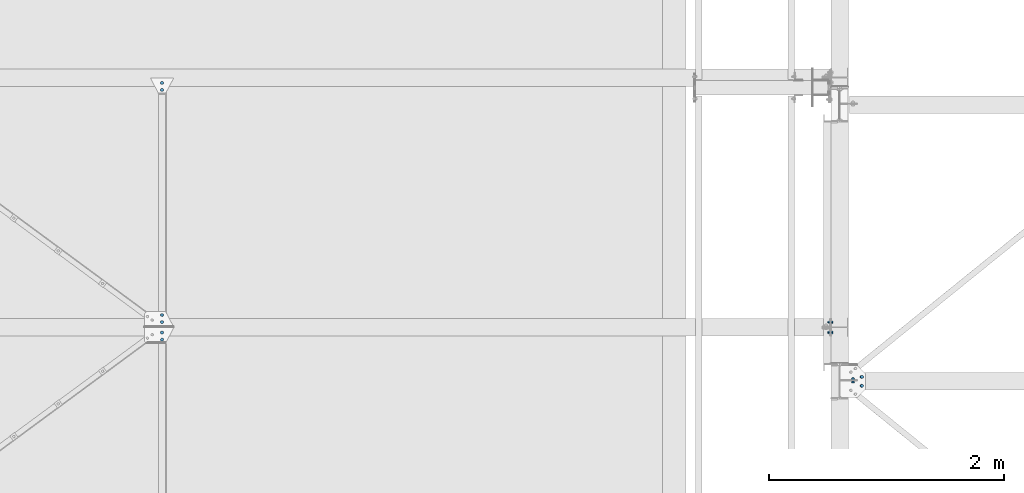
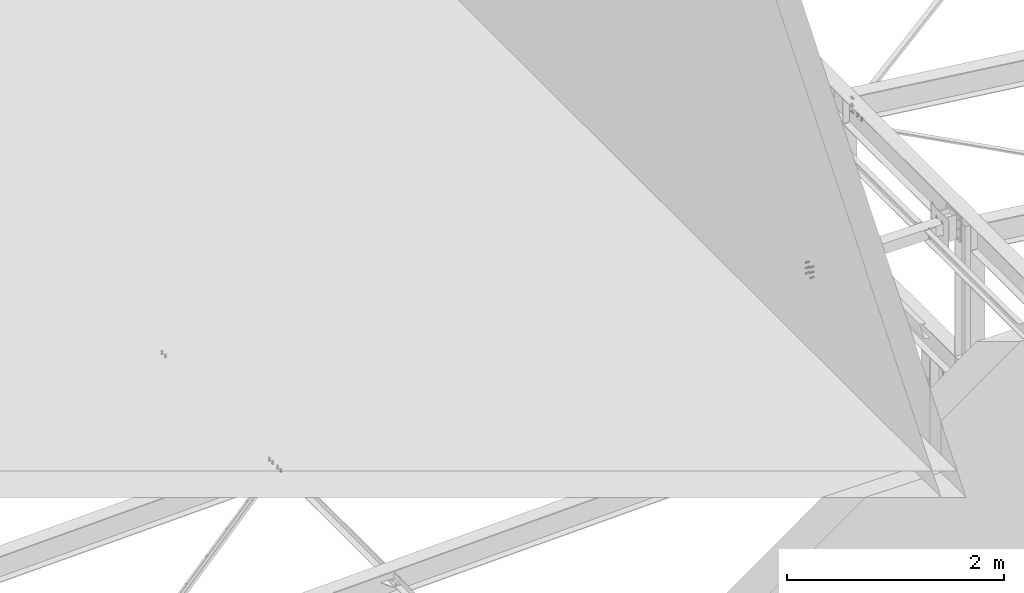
# One storey, part 89 of 3134: 7 mechanical fasteners, 5 elements without a shape of their own.
"""IFC2X3 building model written with IfcOpenShell, lengths in millimetres."""

from ifc_helpers import new_model, si_unit, frame, origin_with_axes, place, context, subcontext, project, spatial, faceted_brep, source, transform, mapped, material, type_object, element, aggregate, save


model = new_model("IFC2X3")

# Units and contexts
model_context = context("Model", 3, precision=1e-05, world=origin_with_axes())
body_context = subcontext(model_context, "Body", "Model", "MODEL_VIEW")
ifc_project = project(units=[si_unit("LENGTHUNIT", "METRE", prefix="MILLI"), si_unit("AREAUNIT", "SQUARE_METRE"), si_unit("VOLUMEUNIT", "CUBIC_METRE"), si_unit("MASSUNIT", "GRAM", prefix="KILO"), si_unit("TIMEUNIT", "SECOND"), si_unit("PLANEANGLEUNIT", "RADIAN"), si_unit("SOLIDANGLEUNIT", "STERADIAN"), si_unit("THERMODYNAMICTEMPERATUREUNIT", "DEGREE_CELSIUS"), si_unit("LUMINOUSINTENSITYUNIT", "LUMEN")], contexts=[model_context])

# Site, building, storey
site_placement = place(None, origin_with_axes())
site = spatial("IfcSite", under=ifc_project, at=site_placement, CompositionType="ELEMENT")
building_placement = place(site_placement, origin_with_axes())
building = spatial("IfcBuilding", under=site, at=building_placement, Name="Undefined", CompositionType="ELEMENT")
storey_placement = place(building_placement, origin_with_axes())
storey = spatial("IfcBuildingStorey", under=building, at=storey_placement, Name="Undefined", CompositionType="ELEMENT", Elevation=0.0)

# Assembly, mechanical fasteners
assembly_1_placement = place(storey_placement, origin_with_axes())
assembly_1 = element("IfcElementAssembly", 1, at=assembly_1_placement, inside=storey, Name="300", AssemblyPlace="NOTDEFINED", PredefinedType="RIGID_FRAME")
ifc_material = material(Name="8.8")
mechanical_fastener_type = type_object("IfcMechanicalFastenerType", Name="Bolt assembly")
shared_shape_1 = source(origin_with_axes(), body_context, "Body", "Brep", [
    faceted_brep([(13.856406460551, -19.199990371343, 0.0), (6.92820323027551, -19.199990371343, 12.0), (-6.92820323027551, -19.199990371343, 12.0), (-13.856406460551, -19.199990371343, 1.69692038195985e-15), (-6.92820323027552, -19.199990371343, -12.0), (6.9282032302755, -19.199990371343, -12.0), (6.9282032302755, -9.19999037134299, -12.0), (-6.92820323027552, -9.19999037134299, -12.0), (-13.856406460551, -9.19999037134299, 1.69692038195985e-15), (-6.92820323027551, -9.19999037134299, 12.0), (6.92820323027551, -9.19999037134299, 12.0), (13.856406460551, -9.19999037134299, 0.0), (8.0, -9.19999037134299, 0.0), (6.92820323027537, -9.19999037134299, 4.00000000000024), (3.99999999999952, -9.19999037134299, 6.92820323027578), (-8.29068785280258e-13, -9.19999037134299, 8.0), (-4.00000000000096, -9.19999037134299, 6.92820323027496), (-6.9282032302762, -9.19999037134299, 3.99999999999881), (-8.0, -9.19999037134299, -1.65813757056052e-12), (-6.92820323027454, -9.19999037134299, -4.00000000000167), (-3.99999999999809, -9.19999037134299, -6.92820323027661), (2.47832457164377e-12, -9.19999037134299, -8.0), (4.00000000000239, -9.19999037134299, -6.92820323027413), (6.92820323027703, -9.19999037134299, -3.99999999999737), (6.92820323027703, 25.800009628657, -3.99999999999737), (4.00000000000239, 25.800009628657, -6.92820323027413), (2.47832457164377e-12, 25.800009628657, -8.0), (-3.99999999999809, 25.800009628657, -6.92820323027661), (-6.92820323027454, 25.800009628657, -4.00000000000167), (-8.0, 25.800009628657, -1.65813757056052e-12), (-6.9282032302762, 25.800009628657, 3.99999999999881), (-4.00000000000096, 25.800009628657, 6.92820323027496), (-8.29068785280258e-13, 25.800009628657, 8.0), (3.99999999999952, 25.800009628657, 6.92820323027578), (6.92820323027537, 25.800009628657, 4.00000000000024), (8.0, 25.800009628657, 0.0), (13.856406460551, 8.00000637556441, 0.0), (6.92820323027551, 8.00000637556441, 12.0), (-6.92820323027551, 8.00000637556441, 12.0), (-13.856406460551, 8.00000637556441, 1.69692038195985e-15), (-6.92820323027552, 8.00000637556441, -12.0), (6.9282032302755, 8.00000637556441, -12.0), (6.9282032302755, 21.0000063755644, -12.0), (-6.92820323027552, 21.0000063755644, -12.0), (-13.856406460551, 21.0000063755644, 1.69692038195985e-15), (-6.92820323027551, 21.0000063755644, 12.0), (6.92820323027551, 21.0000063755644, 12.0), (13.856406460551, 21.0000063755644, 0.0)], [[[0, 1, 2, 3, 4, 5]], [[6, 7, 8, 9, 10, 11]], [[0, 11, 10, 1]], [[1, 10, 9, 2]], [[2, 9, 8, 3]], [[3, 8, 7, 4]], [[4, 7, 6, 5]], [[5, 6, 11, 0]], [[12, 13, 14, 15, 16, 17, 18, 19, 20, 21, 22, 23]], [[24, 25, 26, 27, 28, 29, 30, 31, 32, 33, 34, 35]], [[12, 35, 34, 13]], [[13, 34, 33, 14]], [[14, 33, 32, 15]], [[15, 32, 31, 16]], [[16, 31, 30, 17]], [[17, 30, 29, 18]], [[18, 29, 28, 19]], [[19, 28, 27, 20]], [[20, 27, 26, 21]], [[21, 26, 25, 22]], [[22, 25, 24, 23]], [[23, 24, 35, 12]], [[36, 37, 38, 39, 40, 41]], [[42, 43, 44, 45, 46, 47]], [[36, 47, 46, 37]], [[37, 46, 45, 38]], [[38, 45, 44, 39]], [[39, 44, 43, 40]], [[40, 43, 42, 41]], [[41, 42, 47, 36]]]),
    faceted_brep([(9.0, -0.1, 0.0), (7.79422863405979, -0.1, 4.50000000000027), (4.49999999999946, -0.1, 7.79422863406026), (-9.3270238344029e-13, -0.1, 9.0), (-4.50000000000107, -0.1, 7.79422863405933), (-7.79422863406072, -0.1, 4.49999999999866), (-9.0, -0.1, -1.86540476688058e-12), (-7.79422863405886, -0.1, -4.50000000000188), (-4.49999999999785, -0.1, -7.79422863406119), (2.78811514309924e-12, -0.1, -9.0), (4.50000000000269, -0.1, -7.7942286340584), (7.79422863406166, -0.1, -4.49999999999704), (7.79422863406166, 8.00000000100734, -4.49999999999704), (4.50000000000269, 8.00000000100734, -7.7942286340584), (2.78811514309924e-12, 8.00000000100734, -9.0), (-4.49999999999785, 8.00000000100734, -7.79422863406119), (-7.79422863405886, 8.00000000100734, -4.50000000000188), (-9.0, 8.00000000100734, -1.86540476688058e-12), (-7.79422863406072, 8.00000000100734, 4.49999999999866), (-4.50000000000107, 8.00000000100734, 7.79422863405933), (-9.3270238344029e-13, 8.00000000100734, 9.0), (4.49999999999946, 8.00000000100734, 7.79422863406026), (7.79422863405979, 8.00000000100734, 4.50000000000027), (9.0, 8.00000000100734, 0.0), (9.0, -9.09999037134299, 0.0), (7.79422863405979, -9.09999037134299, 4.50000000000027), (4.49999999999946, -9.09999037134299, 7.79422863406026), (-9.3270238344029e-13, -9.09999037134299, 9.0), (-4.50000000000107, -9.09999037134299, 7.79422863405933), (-7.79422863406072, -9.09999037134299, 4.49999999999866), (-9.0, -9.09999037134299, -1.86540476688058e-12), (-7.79422863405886, -9.09999037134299, -4.50000000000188), (-4.49999999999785, -9.09999037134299, -7.79422863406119), (2.78811514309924e-12, -9.09999037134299, -9.0), (4.50000000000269, -9.09999037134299, -7.7942286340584), (7.79422863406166, -9.09999037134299, -4.49999999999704), (7.79422863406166, 0.100000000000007, -4.49999999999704), (4.50000000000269, 0.100000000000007, -7.7942286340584), (2.78811514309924e-12, 0.100000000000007, -9.0), (-4.49999999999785, 0.100000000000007, -7.79422863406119), (-7.79422863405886, 0.100000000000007, -4.50000000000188), (-9.0, 0.100000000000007, -1.86540476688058e-12), (-7.79422863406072, 0.100000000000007, 4.49999999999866), (-4.50000000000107, 0.100000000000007, 7.79422863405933), (-9.3270238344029e-13, 0.100000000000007, 9.0), (4.49999999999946, 0.100000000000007, 7.79422863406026), (7.79422863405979, 0.100000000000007, 4.50000000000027), (9.0, 0.100000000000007, 0.0)], [[[0, 1, 2, 3, 4, 5, 6, 7, 8, 9, 10, 11]], [[12, 13, 14, 15, 16, 17, 18, 19, 20, 21, 22, 23]], [[0, 23, 22, 1]], [[1, 22, 21, 2]], [[2, 21, 20, 3]], [[3, 20, 19, 4]], [[4, 19, 18, 5]], [[5, 18, 17, 6]], [[6, 17, 16, 7]], [[7, 16, 15, 8]], [[8, 15, 14, 9]], [[9, 14, 13, 10]], [[10, 13, 12, 11]], [[11, 12, 23, 0]], [[24, 25, 26, 27, 28, 29, 30, 31, 32, 33, 34, 35]], [[36, 37, 38, 39, 40, 41, 42, 43, 44, 45, 46, 47]], [[24, 47, 46, 25]], [[25, 46, 45, 26]], [[26, 45, 44, 27]], [[27, 44, 43, 28]], [[28, 43, 42, 29]], [[29, 42, 41, 30]], [[30, 41, 40, 31]], [[31, 40, 39, 32]], [[32, 39, 38, 33]], [[33, 38, 37, 34]], [[34, 37, 36, 35]], [[35, 36, 47, 24]]]),
])
mechanical_fastener_1_placement = place(assembly_1_placement, frame((21039.2248162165, 14767.9995130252, 5496.68063425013), z_axis=(0.992623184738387, 1.63108538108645e-05, -0.12124031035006), x_axis=(1.62000016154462e-05, -0.999999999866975, -1.90000018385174e-06)))
mechanical_fastener_1 = element("IfcMechanicalFastener", 2, at=mechanical_fastener_1_placement, type_object=mechanical_fastener_type, material=ifc_material, Name="Bolt assembly", NominalDiameter=16.0, NominalLength=35.0, context=body_context, shape_type="MappedRepresentation", body=[
    mapped(shared_shape_1, transform((0.0, 0.0, 0.0))),
    mapped(shared_shape_1, transform((76.0, 0.0, 0.0))),
])
shared_shape_2 = source(origin_with_axes(), body_context, "Body", "Brep", [
    faceted_brep([(13.856406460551, -13.0499999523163, 0.0), (6.92820323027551, -13.0499999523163, 12.0), (-6.92820323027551, -13.0499999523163, 12.0), (-13.856406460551, -13.0499999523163, 1.69692038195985e-15), (-6.92820323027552, -13.0499999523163, -12.0), (6.9282032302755, -13.0499999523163, -12.0), (6.9282032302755, -3.04999995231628, -12.0), (-6.92820323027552, -3.04999995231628, -12.0), (-13.856406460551, -3.04999995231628, 1.69692038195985e-15), (-6.92820323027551, -3.04999995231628, 12.0), (6.92820323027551, -3.04999995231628, 12.0), (13.856406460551, -3.04999995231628, 0.0), (8.0, -3.04999995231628, 0.0), (6.92820323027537, -3.04999995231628, 4.00000000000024), (3.99999999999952, -3.04999995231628, 6.92820323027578), (-8.29068785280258e-13, -3.04999995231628, 8.0), (-4.00000000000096, -3.04999995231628, 6.92820323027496), (-6.9282032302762, -3.04999995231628, 3.99999999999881), (-8.0, -3.04999995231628, -1.65813757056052e-12), (-6.92820323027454, -3.04999995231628, -4.00000000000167), (-3.99999999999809, -3.04999995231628, -6.92820323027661), (2.47832457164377e-12, -3.04999995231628, -8.0), (4.00000000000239, -3.04999995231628, -6.92820323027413), (6.92820323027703, -3.04999995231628, -3.99999999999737), (6.92820323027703, 31.9500000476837, -3.99999999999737), (4.00000000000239, 31.9500000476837, -6.92820323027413), (2.47832457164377e-12, 31.9500000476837, -8.0), (-3.99999999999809, 31.9500000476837, -6.92820323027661), (-6.92820323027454, 31.9500000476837, -4.00000000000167), (-8.0, 31.9500000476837, -1.65813757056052e-12), (-6.9282032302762, 31.9500000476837, 3.99999999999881), (-4.00000000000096, 31.9500000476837, 6.92820323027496), (-8.29068785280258e-13, 31.9500000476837, 8.0), (3.99999999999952, 31.9500000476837, 6.92820323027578), (6.92820323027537, 31.9500000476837, 4.00000000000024), (8.0, 31.9500000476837, 0.0), (13.856406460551, 13.0500000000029, 0.0), (6.92820323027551, 13.0500000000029, 12.0), (-6.92820323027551, 13.0500000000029, 12.0), (-13.856406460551, 13.0500000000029, 1.69692038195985e-15), (-6.92820323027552, 13.0500000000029, -12.0), (6.9282032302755, 13.0500000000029, -12.0), (6.9282032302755, 26.0500000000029, -12.0), (-6.92820323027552, 26.0500000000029, -12.0), (-13.856406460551, 26.0500000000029, 1.69692038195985e-15), (-6.92820323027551, 26.0500000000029, 12.0), (6.92820323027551, 26.0500000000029, 12.0), (13.856406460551, 26.0500000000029, 0.0)], [[[0, 1, 2, 3, 4, 5]], [[6, 7, 8, 9, 10, 11]], [[0, 11, 10, 1]], [[1, 10, 9, 2]], [[2, 9, 8, 3]], [[3, 8, 7, 4]], [[4, 7, 6, 5]], [[5, 6, 11, 0]], [[12, 13, 14, 15, 16, 17, 18, 19, 20, 21, 22, 23]], [[24, 25, 26, 27, 28, 29, 30, 31, 32, 33, 34, 35]], [[12, 35, 34, 13]], [[13, 34, 33, 14]], [[14, 33, 32, 15]], [[15, 32, 31, 16]], [[16, 31, 30, 17]], [[17, 30, 29, 18]], [[18, 29, 28, 19]], [[19, 28, 27, 20]], [[20, 27, 26, 21]], [[21, 26, 25, 22]], [[22, 25, 24, 23]], [[23, 24, 35, 12]], [[36, 37, 38, 39, 40, 41]], [[42, 43, 44, 45, 46, 47]], [[36, 47, 46, 37]], [[37, 46, 45, 38]], [[38, 45, 44, 39]], [[39, 44, 43, 40]], [[40, 43, 42, 41]], [[41, 42, 47, 36]]]),
    faceted_brep([(9.0, 2.95000000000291, 0.0), (7.79422863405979, 2.95000000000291, 4.50000000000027), (4.49999999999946, 2.95000000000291, 7.79422863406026), (-9.3270238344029e-13, 2.95000000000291, 9.0), (-4.50000000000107, 2.95000000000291, 7.79422863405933), (-7.79422863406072, 2.95000000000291, 4.49999999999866), (-9.0, 2.95000000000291, -1.86540476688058e-12), (-7.79422863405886, 2.95000000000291, -4.50000000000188), (-4.49999999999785, 2.95000000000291, -7.79422863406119), (2.78811514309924e-12, 2.95000000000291, -9.0), (4.50000000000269, 2.95000000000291, -7.7942286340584), (7.79422863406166, 2.95000000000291, -4.49999999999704), (7.79422863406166, 13.0500000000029, -4.49999999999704), (4.50000000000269, 13.0500000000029, -7.7942286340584), (2.78811514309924e-12, 13.0500000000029, -9.0), (-4.49999999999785, 13.0500000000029, -7.79422863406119), (-7.79422863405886, 13.0500000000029, -4.50000000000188), (-9.0, 13.0500000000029, -1.86540476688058e-12), (-7.79422863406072, 13.0500000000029, 4.49999999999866), (-4.50000000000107, 13.0500000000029, 7.79422863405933), (-9.3270238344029e-13, 13.0500000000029, 9.0), (4.49999999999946, 13.0500000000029, 7.79422863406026), (7.79422863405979, 13.0500000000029, 4.50000000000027), (9.0, 13.0500000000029, 0.0), (9.0, -2.94999995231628, 0.0), (7.79422863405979, -2.94999995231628, 4.50000000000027), (4.49999999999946, -2.94999995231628, 7.79422863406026), (-9.3270238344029e-13, -2.94999995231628, 9.0), (-4.50000000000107, -2.94999995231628, 7.79422863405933), (-7.79422863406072, -2.94999995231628, 4.49999999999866), (-9.0, -2.94999995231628, -1.86540476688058e-12), (-7.79422863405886, -2.94999995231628, -4.50000000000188), (-4.49999999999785, -2.94999995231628, -7.79422863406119), (2.78811514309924e-12, -2.94999995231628, -9.0), (4.50000000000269, -2.94999995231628, -7.7942286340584), (7.79422863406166, -2.94999995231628, -4.49999999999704), (7.79422863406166, 3.14999995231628, -4.49999999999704), (4.50000000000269, 3.14999995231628, -7.7942286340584), (2.78811514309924e-12, 3.14999995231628, -9.0), (-4.49999999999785, 3.14999995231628, -7.79422863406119), (-7.79422863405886, 3.14999995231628, -4.50000000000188), (-9.0, 3.14999995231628, -1.86540476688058e-12), (-7.79422863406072, 3.14999995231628, 4.49999999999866), (-4.50000000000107, 3.14999995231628, 7.79422863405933), (-9.3270238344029e-13, 3.14999995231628, 9.0), (4.49999999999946, 3.14999995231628, 7.79422863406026), (7.79422863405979, 3.14999995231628, 4.50000000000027), (9.0, 3.14999995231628, 0.0)], [[[0, 1, 2, 3, 4, 5, 6, 7, 8, 9, 10, 11]], [[12, 13, 14, 15, 16, 17, 18, 19, 20, 21, 22, 23]], [[0, 23, 22, 1]], [[1, 22, 21, 2]], [[2, 21, 20, 3]], [[3, 20, 19, 4]], [[4, 19, 18, 5]], [[5, 18, 17, 6]], [[6, 17, 16, 7]], [[7, 16, 15, 8]], [[8, 15, 14, 9]], [[9, 14, 13, 10]], [[10, 13, 12, 11]], [[11, 12, 23, 0]], [[24, 25, 26, 27, 28, 29, 30, 31, 32, 33, 34, 35]], [[36, 37, 38, 39, 40, 41, 42, 43, 44, 45, 46, 47]], [[24, 47, 46, 25]], [[25, 46, 45, 26]], [[26, 45, 44, 27]], [[27, 44, 43, 28]], [[28, 43, 42, 29]], [[29, 42, 41, 30]], [[30, 41, 40, 31]], [[31, 40, 39, 32]], [[32, 39, 38, 33]], [[33, 38, 37, 34]], [[34, 37, 36, 35]], [[35, 36, 47, 24]]]),
])
mechanical_fastener_2_placement = place(assembly_1_placement, frame((20964.9999999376, 14730.0, 5735.35014954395), z_axis=(1.0, 0.0, 0.0), x_axis=(0.0, 0.0, -1.0)))
mechanical_fastener_2 = element("IfcMechanicalFastener", 3, at=mechanical_fastener_2_placement, type_object=mechanical_fastener_type, material=ifc_material, Name="Bolt assembly", NominalDiameter=16.0, NominalLength=35.0, context=body_context, shape_type="MappedRepresentation", body=[
    mapped(shared_shape_2, transform((0.0, 0.0, 0.0))),
    mapped(shared_shape_2, transform((80.0, 0.0, 0.0))),
    mapped(shared_shape_2, transform((160.0, 0.0, 0.0))),
])
aggregate(assembly_1, [mechanical_fastener_1, mechanical_fastener_2])

assembly_2_placement = place(storey_placement, origin_with_axes())
assembly_2 = element("IfcElementAssembly", 4, at=assembly_2_placement, inside=storey, Name="300", AssemblyPlace="NOTDEFINED", PredefinedType="RIGID_FRAME")
shared_shape_3 = source(origin_with_axes(), body_context, "Body", "Brep", [
    faceted_brep([(13.856406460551, -21.0000017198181, 0.0), (6.92820323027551, -21.0000017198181, 12.0), (-6.92820323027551, -21.0000017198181, 12.0), (-13.856406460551, -21.0000017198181, 1.69692038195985e-15), (-6.92820323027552, -21.0000017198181, -12.0), (6.9282032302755, -21.0000017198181, -12.0), (6.9282032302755, -11.0000017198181, -12.0), (-6.92820323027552, -11.0000017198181, -12.0), (-13.856406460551, -11.0000017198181, 1.69692038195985e-15), (-6.92820323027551, -11.0000017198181, 12.0), (6.92820323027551, -11.0000017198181, 12.0), (13.856406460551, -11.0000017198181, 0.0), (8.0, -11.0000017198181, 0.0), (6.92820323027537, -11.0000017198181, 4.00000000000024), (3.99999999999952, -11.0000017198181, 6.92820323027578), (-8.29068785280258e-13, -11.0000017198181, 8.0), (-4.00000000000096, -11.0000017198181, 6.92820323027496), (-6.9282032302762, -11.0000017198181, 3.99999999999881), (-8.0, -11.0000017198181, -1.65813757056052e-12), (-6.92820323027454, -11.0000017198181, -4.00000000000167), (-3.99999999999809, -11.0000017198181, -6.92820323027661), (2.47832457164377e-12, -11.0000017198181, -8.0), (4.00000000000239, -11.0000017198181, -6.92820323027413), (6.92820323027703, -11.0000017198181, -3.99999999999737), (6.92820323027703, 23.9999999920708, -3.99999999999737), (4.00000000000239, 23.9999999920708, -6.92820323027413), (2.47832457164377e-12, 23.9999999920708, -8.0), (-3.99999999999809, 23.9999999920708, -6.92820323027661), (-6.92820323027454, 23.9999999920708, -4.00000000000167), (-8.0, 23.9999999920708, -1.65813757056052e-12), (-6.9282032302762, 23.9999999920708, 3.99999999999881), (-4.00000000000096, 23.9999999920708, 6.92820323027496), (-8.29068785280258e-13, 23.9999999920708, 8.0), (3.99999999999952, 23.9999999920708, 6.92820323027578), (6.92820323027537, 23.9999999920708, 4.00000000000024), (8.0, 23.9999999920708, 0.0), (13.856406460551, 3.99999999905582, 0.0), (6.92820323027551, 3.99999999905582, 12.0), (-6.92820323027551, 3.99999999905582, 12.0), (-13.856406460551, 3.99999999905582, 1.69692038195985e-15), (-6.92820323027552, 3.99999999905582, -12.0), (6.9282032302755, 3.99999999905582, -12.0), (6.9282032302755, 16.9999999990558, -12.0), (-6.92820323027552, 16.9999999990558, -12.0), (-13.856406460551, 16.9999999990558, 1.69692038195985e-15), (-6.92820323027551, 16.9999999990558, 12.0), (6.92820323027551, 16.9999999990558, 12.0), (13.856406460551, 16.9999999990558, 0.0)], [[[0, 1, 2, 3, 4, 5]], [[6, 7, 8, 9, 10, 11]], [[0, 11, 10, 1]], [[1, 10, 9, 2]], [[2, 9, 8, 3]], [[3, 8, 7, 4]], [[4, 7, 6, 5]], [[5, 6, 11, 0]], [[12, 13, 14, 15, 16, 17, 18, 19, 20, 21, 22, 23]], [[24, 25, 26, 27, 28, 29, 30, 31, 32, 33, 34, 35]], [[12, 35, 34, 13]], [[13, 34, 33, 14]], [[14, 33, 32, 15]], [[15, 32, 31, 16]], [[16, 31, 30, 17]], [[17, 30, 29, 18]], [[18, 29, 28, 19]], [[19, 28, 27, 20]], [[20, 27, 26, 21]], [[21, 26, 25, 22]], [[22, 25, 24, 23]], [[23, 24, 35, 12]], [[36, 37, 38, 39, 40, 41]], [[42, 43, 44, 45, 46, 47]], [[36, 47, 46, 37]], [[37, 46, 45, 38]], [[38, 45, 44, 39]], [[39, 44, 43, 40]], [[40, 43, 42, 41]], [[41, 42, 47, 36]]]),
    faceted_brep([(9.0, -10.9000017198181, 0.0), (7.79422863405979, -10.9000017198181, 4.50000000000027), (4.49999999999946, -10.9000017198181, 7.79422863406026), (-9.3270238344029e-13, -10.9000017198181, 9.0), (-4.50000000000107, -10.9000017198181, 7.79422863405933), (-7.79422863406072, -10.9000017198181, 4.49999999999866), (-9.0, -10.9000017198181, -1.86540476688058e-12), (-7.79422863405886, -10.9000017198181, -4.50000000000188), (-4.49999999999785, -10.9000017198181, -7.79422863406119), (2.78811514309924e-12, -10.9000017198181, -9.0), (4.50000000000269, -10.9000017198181, -7.7942286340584), (7.79422863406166, -10.9000017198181, -4.49999999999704), (7.79422863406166, -3.9, -4.49999999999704), (4.50000000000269, -3.9, -7.7942286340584), (2.78811514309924e-12, -3.9, -9.0), (-4.49999999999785, -3.9, -7.79422863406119), (-7.79422863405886, -3.9, -4.50000000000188), (-9.0, -3.9, -1.86540476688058e-12), (-7.79422863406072, -3.9, 4.49999999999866), (-4.50000000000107, -3.9, 7.79422863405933), (-9.3270238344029e-13, -3.9, 9.0), (4.49999999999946, -3.9, 7.79422863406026), (7.79422863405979, -3.9, 4.50000000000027), (9.0, -3.9, 0.0), (9.0, -4.10000000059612, 0.0), (7.79422863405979, -4.10000000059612, 4.50000000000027), (4.49999999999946, -4.10000000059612, 7.79422863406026), (-9.3270238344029e-13, -4.10000000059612, 9.0), (-4.50000000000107, -4.10000000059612, 7.79422863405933), (-7.79422863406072, -4.10000000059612, 4.49999999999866), (-9.0, -4.10000000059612, -1.86540476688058e-12), (-7.79422863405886, -4.10000000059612, -4.50000000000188), (-4.49999999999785, -4.10000000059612, -7.79422863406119), (2.78811514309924e-12, -4.10000000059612, -9.0), (4.50000000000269, -4.10000000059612, -7.7942286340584), (7.79422863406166, -4.10000000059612, -4.49999999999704), (7.79422863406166, 4.00000375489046, -4.49999999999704), (4.50000000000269, 4.00000375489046, -7.7942286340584), (2.78811514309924e-12, 4.00000375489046, -9.0), (-4.49999999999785, 4.00000375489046, -7.79422863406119), (-7.79422863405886, 4.00000375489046, -4.50000000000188), (-9.0, 4.00000375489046, -1.86540476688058e-12), (-7.79422863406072, 4.00000375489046, 4.49999999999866), (-4.50000000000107, 4.00000375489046, 7.79422863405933), (-9.3270238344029e-13, 4.00000375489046, 9.0), (4.49999999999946, 4.00000375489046, 7.79422863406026), (7.79422863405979, 4.00000375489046, 4.50000000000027), (9.0, 4.00000375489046, 0.0)], [[[0, 1, 2, 3, 4, 5, 6, 7, 8, 9, 10, 11]], [[12, 13, 14, 15, 16, 17, 18, 19, 20, 21, 22, 23]], [[0, 23, 22, 1]], [[1, 22, 21, 2]], [[2, 21, 20, 3]], [[3, 20, 19, 4]], [[4, 19, 18, 5]], [[5, 18, 17, 6]], [[6, 17, 16, 7]], [[7, 16, 15, 8]], [[8, 15, 14, 9]], [[9, 14, 13, 10]], [[10, 13, 12, 11]], [[11, 12, 23, 0]], [[24, 25, 26, 27, 28, 29, 30, 31, 32, 33, 34, 35]], [[36, 37, 38, 39, 40, 41, 42, 43, 44, 45, 46, 47]], [[24, 47, 46, 25]], [[25, 46, 45, 26]], [[26, 45, 44, 27]], [[27, 44, 43, 28]], [[28, 43, 42, 29]], [[29, 42, 41, 30]], [[30, 41, 40, 31]], [[31, 40, 39, 32]], [[32, 39, 38, 33]], [[33, 38, 37, 34]], [[34, 37, 36, 35]], [[35, 36, 47, 24]]]),
])
mechanical_fastener_3_placement = place(assembly_2_placement, frame((15072.5010771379, 15144.999366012, 3386.35293761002), z_axis=(0.999519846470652, 0.0, 0.0309851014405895), x_axis=(0.0, -1.0, 0.0)))
mechanical_fastener_3 = element("IfcMechanicalFastener", 5, at=mechanical_fastener_3_placement, type_object=mechanical_fastener_type, material=ifc_material, Name="Bolt assembly", NominalDiameter=16.0, NominalLength=35.0, context=body_context, shape_type="MappedRepresentation", body=[
    mapped(shared_shape_3, transform((0.0, 0.0, 0.0))),
    mapped(shared_shape_3, transform((59.9999999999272, 0.0, 5.40239852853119e-10))),
])
mechanical_fastener_4_placement = place(assembly_2_placement, frame((15072.5010771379, 15235.0, 3386.35293761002), z_axis=(-0.999519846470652, 0.0, -0.0309851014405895), x_axis=(0.0, 1.0, 0.0)))
mechanical_fastener_4 = element("IfcMechanicalFastener", 6, at=mechanical_fastener_4_placement, type_object=mechanical_fastener_type, material=ifc_material, Name="Bolt assembly", NominalDiameter=16.0, NominalLength=35.0, context=body_context, shape_type="MappedRepresentation", body=[
    mapped(shared_shape_3, transform((0.0, 0.0, 0.0))),
    mapped(shared_shape_3, transform((59.9999999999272, 0.0, 5.40239852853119e-10))),
])
aggregate(assembly_2, [mechanical_fastener_3, mechanical_fastener_4])

# Assembly, mechanical fastener
assembly_3_placement = place(storey_placement, origin_with_axes())
assembly_3 = element("IfcElementAssembly", 7, at=assembly_3_placement, inside=storey, Name="300", AssemblyPlace="NOTDEFINED", PredefinedType="RIGID_FRAME")
mechanical_fastener_5_placement = place(assembly_3_placement, frame((15072.5010771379, 17215.0, 3386.35293761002), z_axis=(-0.999519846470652, 0.0, -0.0309851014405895), x_axis=(0.0, 1.0, 0.0)))
mechanical_fastener_5 = element("IfcMechanicalFastener", 8, at=mechanical_fastener_5_placement, type_object=mechanical_fastener_type, material=ifc_material, Name="Bolt assembly", NominalDiameter=16.0, NominalLength=35.0, context=body_context, shape_type="MappedRepresentation", body=[
    mapped(shared_shape_3, transform((0.0, 0.0, 0.0))),
    mapped(shared_shape_3, transform((59.9999999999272, 0.0, 5.40239852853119e-10))),
])
aggregate(assembly_3, [mechanical_fastener_5])

assembly_4_placement = place(storey_placement, origin_with_axes())
assembly_4 = element("IfcElementAssembly", 9, at=assembly_4_placement, inside=storey, AssemblyPlace="NOTDEFINED", PredefinedType="RIGID_FRAME")
shared_shape_4 = source(origin_with_axes(), body_context, "Body", "Brep", [
    faceted_brep([(13.856406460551, -19.0, 0.0), (6.92820323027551, -19.0, 12.0), (-6.92820323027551, -19.0, 12.0), (-13.856406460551, -19.0, 1.69692038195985e-15), (-6.92820323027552, -19.0, -12.0), (6.9282032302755, -19.0, -12.0), (6.9282032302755, -9.0, -12.0), (-6.92820323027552, -9.0, -12.0), (-13.856406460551, -9.0, 1.69692038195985e-15), (-6.92820323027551, -9.0, 12.0), (6.92820323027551, -9.0, 12.0), (13.856406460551, -9.0, 0.0), (8.0, -9.0, 0.0), (6.92820323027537, -9.0, 4.00000000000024), (3.99999999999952, -9.0, 6.92820323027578), (-8.29068785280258e-13, -9.0, 8.0), (-4.00000000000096, -9.0, 6.92820323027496), (-6.9282032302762, -9.0, 3.99999999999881), (-8.0, -9.0, -1.65813757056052e-12), (-6.92820323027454, -9.0, -4.00000000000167), (-3.99999999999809, -9.0, -6.92820323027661), (2.47832457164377e-12, -9.0, -8.0), (4.00000000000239, -9.0, -6.92820323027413), (6.92820323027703, -9.0, -3.99999999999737), (6.92820323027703, 26.0, -3.99999999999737), (4.00000000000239, 26.0, -6.92820323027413), (2.47832457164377e-12, 26.0, -8.0), (-3.99999999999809, 26.0, -6.92820323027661), (-6.92820323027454, 26.0, -4.00000000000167), (-8.0, 26.0, -1.65813757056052e-12), (-6.9282032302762, 26.0, 3.99999999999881), (-4.00000000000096, 26.0, 6.92820323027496), (-8.29068785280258e-13, 26.0, 8.0), (3.99999999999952, 26.0, 6.92820323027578), (6.92820323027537, 26.0, 4.00000000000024), (8.0, 26.0, 0.0), (13.856406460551, 7.0, 0.0), (6.92820323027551, 7.0, 12.0), (-6.92820323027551, 7.0, 12.0), (-13.856406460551, 7.0, 1.69692038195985e-15), (-6.92820323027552, 7.0, -12.0), (6.9282032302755, 7.0, -12.0), (6.9282032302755, 20.0, -12.0), (-6.92820323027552, 20.0, -12.0), (-13.856406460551, 20.0, 1.69692038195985e-15), (-6.92820323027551, 20.0, 12.0), (6.92820323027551, 20.0, 12.0), (13.856406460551, 20.0, 0.0)], [[[0, 1, 2, 3, 4, 5]], [[6, 7, 8, 9, 10, 11]], [[0, 11, 10, 1]], [[1, 10, 9, 2]], [[2, 9, 8, 3]], [[3, 8, 7, 4]], [[4, 7, 6, 5]], [[5, 6, 11, 0]], [[12, 13, 14, 15, 16, 17, 18, 19, 20, 21, 22, 23]], [[24, 25, 26, 27, 28, 29, 30, 31, 32, 33, 34, 35]], [[12, 35, 34, 13]], [[13, 34, 33, 14]], [[14, 33, 32, 15]], [[15, 32, 31, 16]], [[16, 31, 30, 17]], [[17, 30, 29, 18]], [[18, 29, 28, 19]], [[19, 28, 27, 20]], [[20, 27, 26, 21]], [[21, 26, 25, 22]], [[22, 25, 24, 23]], [[23, 24, 35, 12]], [[36, 37, 38, 39, 40, 41]], [[42, 43, 44, 45, 46, 47]], [[36, 47, 46, 37]], [[37, 46, 45, 38]], [[38, 45, 44, 39]], [[39, 44, 43, 40]], [[40, 43, 42, 41]], [[41, 42, 47, 36]]]),
    faceted_brep([(9.0, -8.9, 0.0), (7.79422863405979, -8.9, 4.50000000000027), (4.49999999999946, -8.9, 7.79422863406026), (-9.3270238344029e-13, -8.9, 9.0), (-4.50000000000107, -8.9, 7.79422863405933), (-7.79422863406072, -8.9, 4.49999999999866), (-9.0, -8.9, -1.86540476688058e-12), (-7.79422863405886, -8.9, -4.50000000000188), (-4.49999999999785, -8.9, -7.79422863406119), (2.78811514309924e-12, -8.9, -9.0), (4.50000000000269, -8.9, -7.7942286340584), (7.79422863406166, -8.9, -4.49999999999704), (7.79422863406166, 0.100000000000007, -4.49999999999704), (4.50000000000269, 0.100000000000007, -7.7942286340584), (2.78811514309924e-12, 0.100000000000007, -9.0), (-4.49999999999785, 0.100000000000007, -7.79422863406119), (-7.79422863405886, 0.100000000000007, -4.50000000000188), (-9.0, 0.100000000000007, -1.86540476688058e-12), (-7.79422863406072, 0.100000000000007, 4.49999999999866), (-4.50000000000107, 0.100000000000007, 7.79422863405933), (-9.3270238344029e-13, 0.100000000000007, 9.0), (4.49999999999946, 0.100000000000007, 7.79422863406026), (7.79422863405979, 0.100000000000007, 4.50000000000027), (9.0, 0.100000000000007, 0.0), (9.0, -0.1, 0.0), (7.79422863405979, -0.1, 4.50000000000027), (4.49999999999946, -0.1, 7.79422863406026), (-9.3270238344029e-13, -0.1, 9.0), (-4.50000000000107, -0.1, 7.79422863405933), (-7.79422863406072, -0.1, 4.49999999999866), (-9.0, -0.1, -1.86540476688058e-12), (-7.79422863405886, -0.1, -4.50000000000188), (-4.49999999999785, -0.1, -7.79422863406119), (2.78811514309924e-12, -0.1, -9.0), (4.50000000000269, -0.1, -7.7942286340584), (7.79422863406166, -0.1, -4.49999999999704), (7.79422863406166, 7.0, -4.49999999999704), (4.50000000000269, 7.0, -7.7942286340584), (2.78811514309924e-12, 7.0, -9.0), (-4.49999999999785, 7.0, -7.79422863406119), (-7.79422863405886, 7.0, -4.50000000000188), (-9.0, 7.0, -1.86540476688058e-12), (-7.79422863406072, 7.0, 4.49999999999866), (-4.50000000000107, 7.0, 7.79422863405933), (-9.3270238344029e-13, 7.0, 9.0), (4.49999999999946, 7.0, 7.79422863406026), (7.79422863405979, 7.0, 4.50000000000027), (9.0, 7.0, 0.0)], [[[0, 1, 2, 3, 4, 5, 6, 7, 8, 9, 10, 11]], [[12, 13, 14, 15, 16, 17, 18, 19, 20, 21, 22, 23]], [[0, 23, 22, 1]], [[1, 22, 21, 2]], [[2, 21, 20, 3]], [[3, 20, 19, 4]], [[4, 19, 18, 5]], [[5, 18, 17, 6]], [[6, 17, 16, 7]], [[7, 16, 15, 8]], [[8, 15, 14, 9]], [[9, 14, 13, 10]], [[10, 13, 12, 11]], [[11, 12, 23, 0]], [[24, 25, 26, 27, 28, 29, 30, 31, 32, 33, 34, 35]], [[36, 37, 38, 39, 40, 41, 42, 43, 44, 45, 46, 47]], [[24, 47, 46, 25]], [[25, 46, 45, 26]], [[26, 45, 44, 27]], [[27, 44, 43, 28]], [[28, 43, 42, 29]], [[29, 42, 41, 30]], [[30, 41, 40, 31]], [[31, 40, 39, 32]], [[32, 39, 38, 33]], [[33, 38, 37, 34]], [[34, 37, 36, 35]], [[35, 36, 47, 24]]]),
])
mechanical_fastener_6_placement = place(assembly_4_placement, frame((20774.0000000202, 15146.96, 3648.83272487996), z_axis=(0.0, 1.0, 0.0), x_axis=(0.0, 0.0, -1.0)))
mechanical_fastener_6 = element("IfcMechanicalFastener", 10, at=mechanical_fastener_6_placement, type_object=mechanical_fastener_type, material=ifc_material, Name="Bolt assembly", NominalDiameter=16.0, NominalLength=35.0, context=body_context, shape_type="MappedRepresentation", body=[
    mapped(shared_shape_4, transform((0.0, 0.0, 0.0))),
    mapped(shared_shape_4, transform((59.9999999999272, 0.0, 5.40239852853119e-10))),
    mapped(shared_shape_4, transform((120.0, 0.0, 0.0))),
])
aggregate(assembly_4, [mechanical_fastener_6])

assembly_5_placement = place(storey_placement, origin_with_axes())
assembly_5 = element("IfcElementAssembly", 11, at=assembly_5_placement, inside=storey, AssemblyPlace="NOTDEFINED", PredefinedType="RIGID_FRAME")
mechanical_fastener_7_placement = place(assembly_5_placement, frame((20774.0000000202, 15233.04, 3648.83272487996), z_axis=(0.0, 1.0, 0.0), x_axis=(0.0, 0.0, -1.0)))
mechanical_fastener_7 = element("IfcMechanicalFastener", 12, at=mechanical_fastener_7_placement, type_object=mechanical_fastener_type, material=ifc_material, Name="Bolt assembly", NominalDiameter=16.0, NominalLength=35.0, context=body_context, shape_type="MappedRepresentation", body=[
    mapped(shared_shape_4, transform((0.0, 0.0, 0.0))),
    mapped(shared_shape_4, transform((59.9999999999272, 0.0, 5.40239852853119e-10))),
    mapped(shared_shape_4, transform((120.0, 0.0, 0.0))),
])
aggregate(assembly_5, [mechanical_fastener_7])

save(model, "model.ifc")
